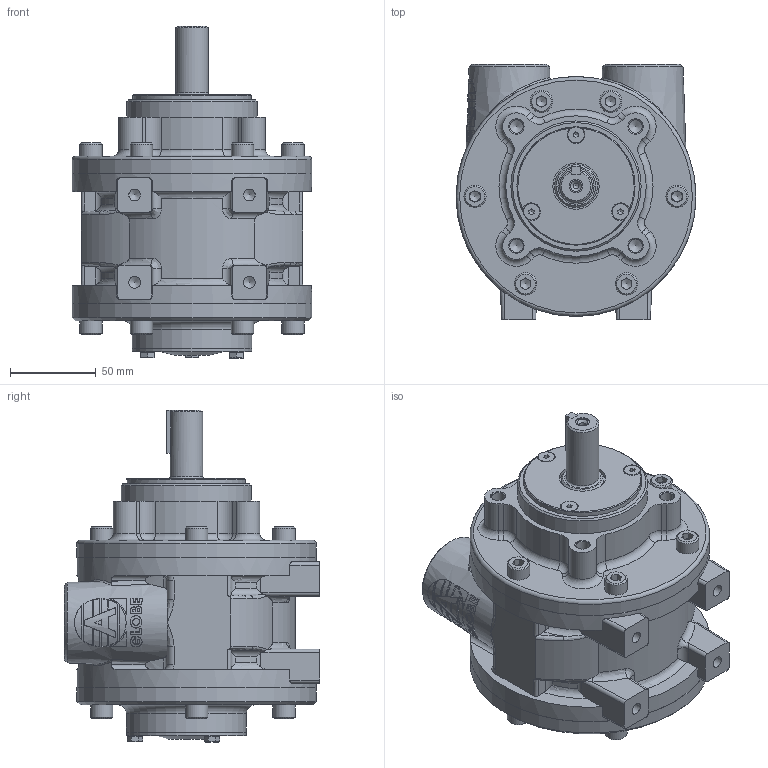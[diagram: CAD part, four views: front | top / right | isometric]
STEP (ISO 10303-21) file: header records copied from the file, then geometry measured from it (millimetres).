
FILE_DESCRIPTION (( 'STEP AP214' ), '1' );
FILE_NAME ('VA8X Defeature + Logo.STEP', '2023-05-23T11:06:29', ( '' ), ( '' ), 'SwSTEP 2.0', 'SolidWorks 2022', '' );
FILE_SCHEMA (( 'AUTOMOTIVE_DESIGN' ));
Length unit declared in the file: millimetre
Products named in the file (1): VA8X Defeature + Logo
Bounding box: 140 x 149 x 193.9 mm (x, y, z)
Volume: 1708453.9 mm3; surface area: 118455.1 mm2
Topology: 1 solids, 1 shells, 723 faces, 1795 edges, 1119 vertices
Faces by surface type: plane 322, cylinder 131, bspline 124, cone 99, torus 43, sphere 4
Full cylindrical faces by diameter (mm): 3.4 x1, 6.8 x4, 7.937 x2, 7.938 x2, 8 x4, 9.64 x3, 13 x12, 19.06 x1, 25 x1, 27 x1, 30.291 x2, 69 x1, 69.8 x1, 70 x2, 76.1 x1, 138 x2, 140 x3
Entity records: 41727 total; most frequent: CARTESIAN_POINT 22734, ORIENTED_EDGE 3266, DIRECTION 2696, EDGE_CURVE 1633, VERTEX_POINT 1063, AXIS2_PLACEMENT_3D 1019, EDGE_LOOP 874, FACE_OUTER_BOUND 769
